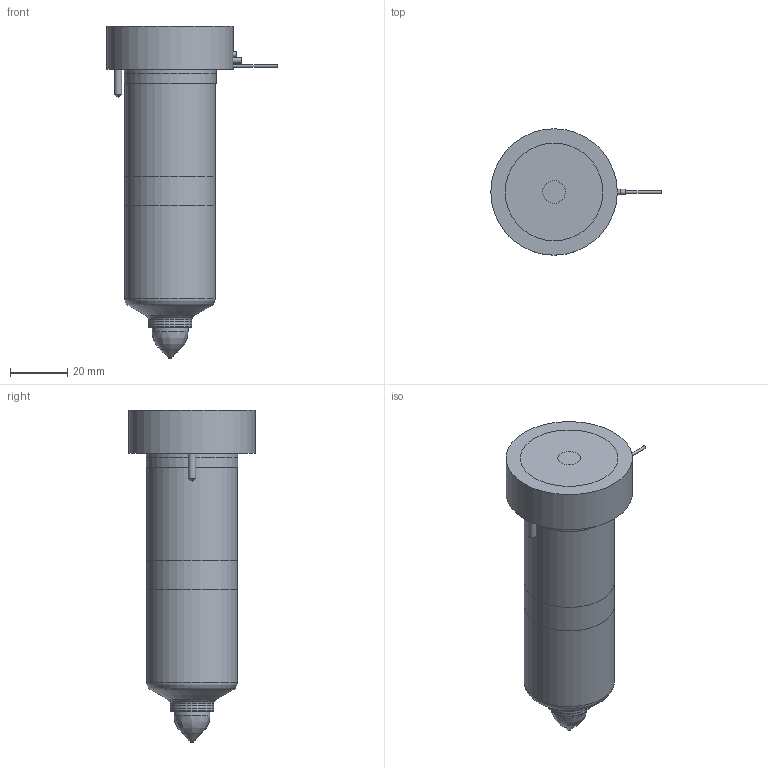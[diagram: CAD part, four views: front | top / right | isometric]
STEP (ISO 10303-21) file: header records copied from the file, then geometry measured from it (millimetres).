
FILE_DESCRIPTION(/* description */ (''),/* implementation_level */ '2;1');
FILE_NAME(/* name */ 'MXTT-MXIT19095-5_250C_b',/* time_stamp */ '2007-01-18T09:53:33+13:00',/* author */ (''),/* organization */ (''),/* preprocessor_version */ 'ST-DEVELOPER v9',/* originating_system */ 'UGS - NX 4.0',/* authorisation */ '');
FILE_SCHEMA (('CONFIG_CONTROL_DESIGN'));
Length unit declared in the file: millimetre
Products named in the file (1): MXTT-MXIT19095-5_250C_b
Bounding box: 59.25 x 44 x 115.53 mm (x, y, z)
Volume: 158198.3 mm3; surface area: 28901.7 mm2
Topology: 7 solids, 7 shells, 86 faces, 162 edges, 102 vertices
Faces by surface type: plane 35, cylinder 29, cone 12, torus 8, bspline 2
Full cylindrical faces by diameter (mm): 1 x3, 1.2 x1, 2 x2, 2.5 x2, 8 x1, 9 x1, 12.5 x1, 14.61 x1, 15.01 x2, 18.3 x1, 25.4 x1, 31.5 x2, 32 x2, 44 x1
Entity records: 2069 total; most frequent: CARTESIAN_POINT 427, DIRECTION 352, ORIENTED_EDGE 228, AXIS2_PLACEMENT_3D 163, EDGE_LOOP 138, EDGE_CURVE 114, VERTEX_POINT 95, ADVANCED_FACE 86
